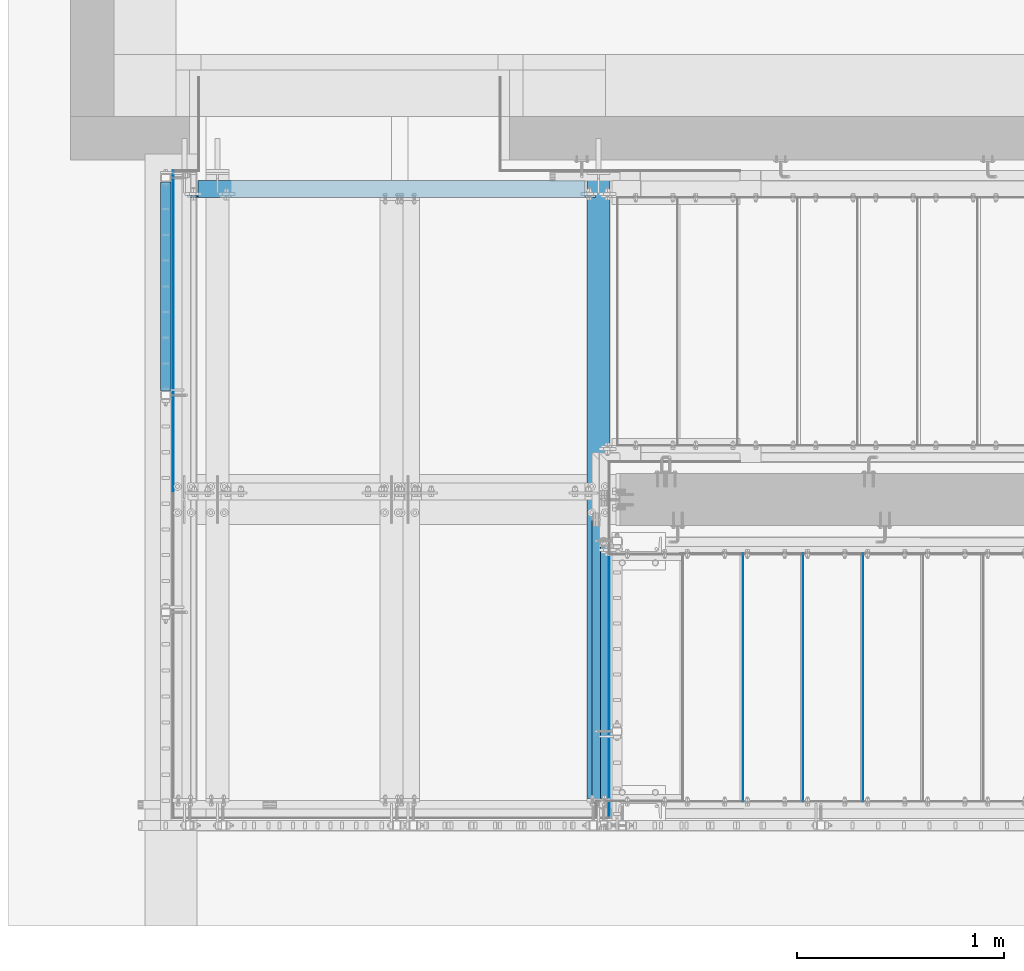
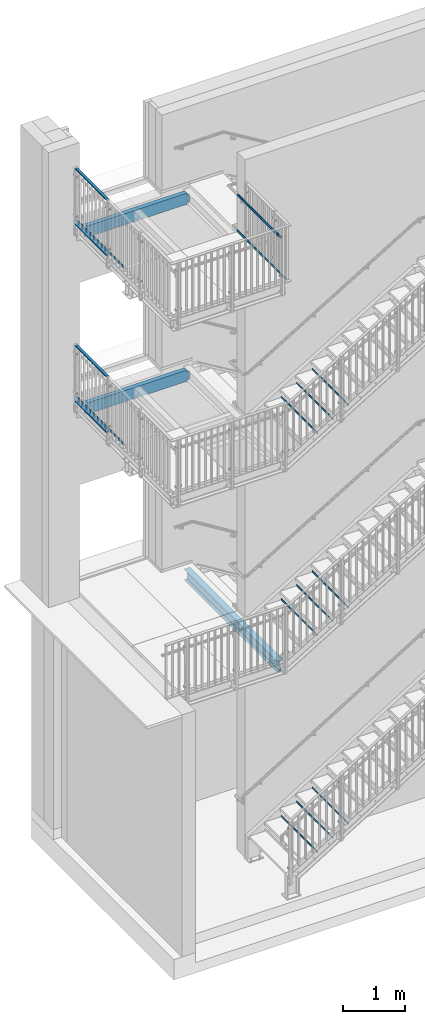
# One storey, part 29 of 410: 20 beams, 30 openings.
"""IFC2X3 building model written with IfcOpenShell, lengths in millimetres."""

import ifcopenshell
import ifcopenshell.guid

model = None  # the IFC model being written
_history = None  # IfcOwnerHistory: only IFC2X3 demands one
_inside = {}  # id of a spatial element -> (the spatial element, [elements in it])
_under = {}  # id of a project, library or spatial element -> (it, [spatial elements below it])
_declared = {}  # id of a project -> (the project, [libraries it declares])
_typed = {}  # id of a type object -> (the type object, [elements of that type])
_made_of = {}  # id of a material, layer set ... -> (it, [elements and type objects made of it])


def new_model(schema):
    """Start an empty IFC model of exactly this schema.

    Asked for "IFC4X3", IfcOpenShell would pick the latest addendum, in which some entities
    have other attributes; the version numbers below select the first issue.
    IFC2X3 requires an IfcOwnerHistory on every rooted entity: one is made here for all.
    """
    global model, _history
    if schema == "IFC4X3":
        model = ifcopenshell.file(schema_version=(4, 3, 0, 0))
    else:
        model = ifcopenshell.file(schema=schema)
    _inside.clear()
    _under.clear()
    _declared.clear()
    _typed.clear()
    _made_of.clear()
    _history = None
    if model.schema == "IFC2X3":
        org = make("IfcOrganization", Name="unknown")
        user = make(
            "IfcPersonAndOrganization",
            ThePerson=make("IfcPerson", FamilyName="unknown"),
            TheOrganization=org,
        )
        app = make(
            "IfcApplication",
            ApplicationDeveloper=org,
            Version="unknown",
            ApplicationFullName="unknown",
            ApplicationIdentifier="unknown",
        )
        _history = make(
            "IfcOwnerHistory",
            OwningUser=user,
            OwningApplication=app,
            ChangeAction="ADDED",
            CreationDate=0,
        )
    return model


def make(cls, **values):
    """One entity of the class cls with the attributes given. An attribute that is None is left unset."""
    return model.create_entity(
        cls, **{name: value for name, value in values.items() if value is not None}
    )


def entity(cls, *values):
    """Any entity or typed value of the class cls, its attributes in the order of the schema. None: left unset."""
    e = model.create_entity(cls)
    for i, value in enumerate(values):
        if value is not None:
            e[i] = value
    return e


def rooted(cls, **values):
    """An entity with a GlobalId (a new one), such as an element, a storey or a relation."""
    return make(cls, GlobalId=ifcopenshell.guid.new(), OwnerHistory=_history, **values)


def si_unit(unit_type, name, prefix=None):
    """IfcSIUnit, for example si_unit("LENGTHUNIT", "METRE", prefix="MILLI")."""
    return make("IfcSIUnit", UnitType=unit_type, Prefix=prefix, Name=name)


def converted_unit(unit_type, name, factor, base, dimensions=None, offset=None):
    """IfcConversionBasedUnit, such as the inch: factor (a typed value) times the base unit."""
    return make(
        "IfcConversionBasedUnit"
        if offset is None
        else "IfcConversionBasedUnitWithOffset",
        ConversionOffset=offset,
        Dimensions=None
        if dimensions is None
        else entity("IfcDimensionalExponents", *dimensions),
        UnitType=unit_type,
        Name=name,
        ConversionFactor=make(
            "IfcMeasureWithUnit", ValueComponent=factor, UnitComponent=base
        ),
    )


def assignment(units):
    """IfcUnitAssignment: the units of a project."""
    return None if units is None else make("IfcUnitAssignment", Units=units)


def point(xyz):
    """IfcCartesianPoint."""
    return None if xyz is None else make("IfcCartesianPoint", Coordinates=xyz)


def direction(xyz):
    """IfcDirection."""
    return None if xyz is None else make("IfcDirection", DirectionRatios=xyz)


def frame(location, z_axis=None, x_axis=None):
    """IfcAxis2Placement3D, a coordinate frame: its origin and axes. An axis left out is left unset."""
    return make(
        "IfcAxis2Placement3D",
        Location=point(location),
        Axis=direction(z_axis),
        RefDirection=direction(x_axis),
    )


def frame_2d(location, x_axis=None):
    """IfcAxis2Placement2D, a coordinate frame in the plane: its origin and x axis."""
    return make(
        "IfcAxis2Placement2D", Location=point(location), RefDirection=direction(x_axis)
    )


def origin():
    """The frame at (0, 0, 0) with its axes left unset."""
    return frame((0.0, 0.0, 0.0))


def origin_with_axes():
    """The frame at (0, 0, 0) with the z axis (0, 0, 1) and the x axis (1, 0, 0) written out."""
    return frame((0.0, 0.0, 0.0), z_axis=(0.0, 0.0, 1.0), x_axis=(1.0, 0.0, 0.0))


def origin_2d():
    """The frame at (0, 0) in the plane with its x axis left unset."""
    return frame_2d((0.0, 0.0))


def origin_2d_with_axis():
    """The frame at (0, 0) in the plane with the x axis (1, 0) written out."""
    return frame_2d((0.0, 0.0), x_axis=(1.0, 0.0))


def place(relative_to, where):
    """IfcLocalPlacement: puts the frame where relative to a parent placement (None: the world)."""
    return make(
        "IfcLocalPlacement", PlacementRelTo=relative_to, RelativePlacement=where
    )


def context(
    kind, dimensions, precision=None, world=None, true_north=None, identifier=None
):
    """IfcGeometricRepresentationContext, for example the 3D "Model" context."""
    return make(
        "IfcGeometricRepresentationContext",
        ContextIdentifier=identifier,
        ContextType=kind,
        CoordinateSpaceDimension=dimensions,
        Precision=precision,
        WorldCoordinateSystem=world,
        TrueNorth=true_north,
    )


def project(units=None, contexts=None):
    """IfcProject with its units and contexts."""
    return rooted(
        "IfcProject",
        Name="project",
        RepresentationContexts=contexts,
        UnitsInContext=assignment(units),
    )


def spatial(cls, under=None, at=None, **own):
    """A site, building, storey or space (cls), placed at a placement, below another one or the project."""
    s = rooted(cls, ObjectPlacement=at, **own)
    if under is not None:
        _under.setdefault(under.id(), (under, []))[1].append(s)
    return s


def circle_curve(where, radius):
    """IfcCircle in the frame where."""
    return make("IfcCircle", Position=where, Radius=radius)


def line_curve(start, along, magnitude):
    """IfcLine from a point along a vector."""
    return make(
        "IfcLine",
        Pnt=point(start),
        Dir=make("IfcVector", Orientation=direction(along), Magnitude=magnitude),
    )


def trimmed(basis, trim1, trim2, sense, master):
    """IfcTrimmedCurve: the piece of a basis curve between two trims."""
    return make(
        "IfcTrimmedCurve",
        BasisCurve=basis,
        Trim1=trim1,
        Trim2=trim2,
        SenseAgreement=sense,
        MasterRepresentation=master,
    )


def segment(curve, same_sense, transition):
    """IfcCompositeCurveSegment."""
    return make(
        "IfcCompositeCurveSegment",
        Transition=transition,
        SameSense=same_sense,
        ParentCurve=curve,
    )


def composite_curve(segments, self_intersect=None):
    """IfcCompositeCurve: segments joined end to end."""
    return make("IfcCompositeCurve", Segments=segments, SelfIntersect=self_intersect)


def profile(cls, at=None, kind="AREA", **sizes):
    """A parametric profile (cls). Its sizes go by their IFC names, for example OverallWidth=200.0."""
    return make(cls, ProfileType=kind, Position=at, **sizes)


def rectangle(**sizes):
    """IfcRectangleProfileDef."""
    return profile("IfcRectangleProfileDef", **sizes)


def circle(**sizes):
    """IfcCircleProfileDef."""
    return profile("IfcCircleProfileDef", **sizes)


def hollow_circle(**sizes):
    """IfcCircleHollowProfileDef."""
    return profile("IfcCircleHollowProfileDef", **sizes)


def i_section(**sizes):
    """IfcIShapeProfileDef."""
    return profile("IfcIShapeProfileDef", **sizes)


def u_section(**sizes):
    """IfcUShapeProfileDef."""
    return profile("IfcUShapeProfileDef", **sizes)


def outline(outer, holes=None, kind="AREA"):
    """IfcArbitraryClosedProfileDef: a profile drawn as a closed curve; with holes, ...WithVoids."""
    if holes is None:
        return make("IfcArbitraryClosedProfileDef", ProfileType=kind, OuterCurve=outer)
    return make(
        "IfcArbitraryProfileDefWithVoids",
        ProfileType=kind,
        OuterCurve=outer,
        InnerCurves=holes,
    )


def extrude(swept, where, along, depth):
    """IfcExtrudedAreaSolid: the profile swept, set in the frame where, extruded along a direction by depth."""
    return make(
        "IfcExtrudedAreaSolid",
        SweptArea=swept,
        Position=where,
        ExtrudedDirection=direction(along),
        Depth=depth,
    )


def clip(a, b, op="DIFFERENCE"):
    """IfcBooleanClippingResult: the solid a cut by the half space b."""
    return make(
        "IfcBooleanClippingResult", Operator=op, FirstOperand=a, SecondOperand=b
    )


def halfspace(plane, agree):
    """IfcHalfSpaceSolid: all space on one side of the plane z = 0 of the frame plane."""
    return make(
        "IfcHalfSpaceSolid",
        BaseSurface=make("IfcPlane", Position=plane),
        AgreementFlag=agree,
    )


def shape(context_of_items, identifier, shape_type, items):
    """IfcShapeRepresentation: the items that make up one representation, for example the "Body"."""
    return make(
        "IfcShapeRepresentation",
        ContextOfItems=context_of_items,
        RepresentationIdentifier=identifier,
        RepresentationType=shape_type,
        Items=items,
    )


def material(Name=None, Category=None):
    """IfcMaterial."""
    return make("IfcMaterial", Name=Name, Category=Category)


def made_of(thing, what):
    """Note that an element or type object is made of a material, layer set ...; save() writes the relation."""
    if what is not None:
        _made_of.setdefault(what.id(), (what, []))[1].append(thing)
    return thing


def element(
    cls,
    number,
    at=None,
    inside=None,
    cuts=None,
    type_object=None,
    material=None,
    context=None,
    identifier="Body",
    shape_type=None,
    held_by="IfcProductDefinitionShape",
    body=None,
    shapes=None,
    **own,
):
    """One element of the class cls, such as IfcWall. Its Tag is "e" and its number.

    at: its placement. inside: the storey or other place that contains it. cuts: it is an
    opening in that element (IfcRelVoidsElement). A single representation is given by context,
    identifier, shape_type and body (its items); several are given by shapes. held_by: the class
    of the entity that holds the representations. save() writes the other relations.
    """
    e = rooted(cls, Tag="e%d" % number, ObjectPlacement=at, **own)
    if body is not None:
        shapes = [shape(context, identifier, shape_type, body)]
    if shapes is not None:
        e.Representation = make(held_by, Representations=shapes)
    if inside is not None:
        _inside.setdefault(inside.id(), (inside, []))[1].append(e)
    if cuts is not None:
        rooted(
            "IfcRelVoidsElement", RelatingBuildingElement=cuts, RelatedOpeningElement=e
        )
    if type_object is not None:
        _typed.setdefault(type_object.id(), (type_object, []))[1].append(e)
    return made_of(e, material)


def aggregate(whole, parts):
    """IfcRelAggregates: a whole, such as a stair, and the parts it consists of."""
    return rooted("IfcRelAggregates", RelatingObject=whole, RelatedObjects=parts)


def save(model, path):
    """Write the relations noted so far, then the file.

    IfcRelAggregates (storeys below a building ...), IfcRelContainedInSpatialStructure (elements
    in a storey), IfcRelDefinesByType, IfcRelAssociatesMaterial and IfcRelDeclares: one each for
    every whole, place, type object, material and project.
    """
    for whole, parts in _under.values():
        aggregate(whole, parts)
    for where, things in _inside.values():
        rooted(
            "IfcRelContainedInSpatialStructure",
            RelatedElements=things,
            RelatingStructure=where,
        )
    for kind, things in _typed.values():
        rooted("IfcRelDefinesByType", RelatedObjects=things, RelatingType=kind)
    for what, things in _made_of.values():
        rooted("IfcRelAssociatesMaterial", RelatedObjects=things, RelatingMaterial=what)
    for by, libraries in _declared.values():
        rooted("IfcRelDeclares", RelatingContext=by, RelatedDefinitions=libraries)
    model.write(path)


model = new_model("IFC2X3")

# Units and contexts
model_context = context("Model", 3, precision=1e-09, world=origin_with_axes())
ifc_project = project(units=[si_unit("LENGTHUNIT", "METRE", prefix="MILLI"), si_unit("AREAUNIT", "SQUARE_METRE"), si_unit("VOLUMEUNIT", "CUBIC_METRE"), converted_unit("PLANEANGLEUNIT", "DEGREE", entity("IfcPlaneAngleMeasure", 0.01745329), si_unit("PLANEANGLEUNIT", "RADIAN"), dimensions=[0, 0, 0, 0, 0, 0, 0])], contexts=[model_context])

# Site, building, storey
site_placement = place(None, origin_with_axes())
site = spatial("IfcSite", under=ifc_project, at=site_placement, Name="mKR Teilneubau & Sanierung BA1 - Ostfildern", CompositionType="ELEMENT")
building_placement = place(site_placement, origin_with_axes())
building = spatial("IfcBuilding", under=site, at=building_placement, Name="Struktur 1", CompositionType="ELEMENT")
storey_placement = place(building_placement, origin_with_axes())
storey = spatial("IfcBuildingStorey", under=building, at=storey_placement, Name="Default Storey", CompositionType="ELEMENT", Elevation=0.0)

# Beams
ifc_material = material(Name="S235JR")
for number, where, z_axis, x_axis in (
    (1, (-1111.5, 15519.999999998, 4195.0), (0.0, -1.0, 0.0), (1.0, 0.0, 0.0)),
    (2, (-1111.5, 15519.999999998, 193.9130435), (0.0, -1.0, 0.0), (1.0, 0.0, 0.0)),
    (3, (-1111.5, 15519.999999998, -4092.4), (0.0, -1.0, 0.0), (1.0, 0.0, 0.0)),
    (4, (-821.5, 15519.999999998, -3913.6), (0.0, -1.0, 0.0), (1.0, 0.0, 0.0)),
    (5, (-531.5, 15519.999999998, -3734.8), (0.0, -1.0, 0.0), (1.0, 0.0, 0.0)),
    (6, (-821.5, 15519.999999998, 367.826087), (0.0, -1.0, 0.0), (1.0, 0.0, 0.0)),
    (7, (-531.5, 15519.999999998, 541.7391305), (0.0, -1.0, 0.0), (1.0, 0.0, 0.0)),
    (8, (-821.5, 15519.999999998, 4370.0), (0.0, -1.0, 0.0), (1.0, 0.0, 0.0)),
    (9, (-531.5, 15519.999999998, 4545.0), (0.0, -1.0, 0.0), (1.0, 0.0, 0.0)),
):
    element("IfcBeam", number, at=place(None, frame(where, z_axis=z_axis, x_axis=x_axis)), inside=storey, material=ifc_material, Name="-", ObjectType="-", context=model_context, shape_type="SweptSolid", body=[
        extrude(rectangle(XDim=3.0, YDim=40.0, at=origin_2d()), origin(), (0.0, 0.0, -1.0), 1200.0),
    ])

# Beam, openings
beam_1_placement = place(None, frame((-1595.901532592, 18461.399999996, 3830.0), z_axis=(1.0, 0.0, 0.0), x_axis=(0.0, 1.0, 0.0)))
beam_1 = element("IfcBeam", 10, at=beam_1_placement, inside=storey, material=ifc_material, Name="-", ObjectType="-", context=model_context, shape_type="Clipping", body=[
    clip(extrude(u_section(Depth=220.0, FlangeWidth=80.0, WebThickness=9.0, FlangeThickness=12.5, FilletRadius=12.5, EdgeRadius=6.0, FlangeSlope=4.574, at=frame_2d((18.6, 0.0))), origin(), (0.0, 0.0, -1.0), 2201.146999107), halfspace(frame((-18461.399999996, -3830.0, -227.047999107), z_axis=(0.0, 0.0, -1.0), x_axis=(-1.0, 0.0, 0.0)), True)),
])
opening_1_placement = place(beam_1_placement, frame((1518.6, 80.0, -274.096999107), z_axis=(-1.0, 0.0, 0.0), x_axis=(0.0, 0.0, 1.0)))
element("IfcOpeningElement", 11, at=opening_1_placement, cuts=beam_1, ObjectType="Opening", context=model_context, shape_type="SweptSolid", body=[
    extrude(outline(composite_curve([segment(trimmed(line_curve((47.85, 0.0), (0.0, 1.0), 30.8), [point((47.85, 0.0))], [point((47.85, 30.8))], True, "CARTESIAN"), True, "CONTINUOUS"), segment(trimmed(line_curve((47.85, 30.8), (-1.0, 0.0), 52.85), [point((47.85, 30.8))], [point((-5.0, 30.8))], True, "CARTESIAN"), True, "CONTINUOUS"), segment(trimmed(line_curve((-5.0, 30.8), (0.0, -1.0), 25.8), [point((-5.0, 30.8))], [point((-5.0, 5.0))], True, "CARTESIAN"), True, "CONTINUOUS"), segment(trimmed(circle_curve(frame_2d((0.0, 5.0), x_axis=(1.0, 0.0)), 5.0), [point((-5.0, 5.0))], [point((0.0, 0.0))], True, "CARTESIAN"), True, "CONTINUOUS"), segment(trimmed(line_curve((0.0, 0.0), (1.0, 0.0), 47.85), [point((0.0, 0.0))], [point((47.85, 0.0))], True, "CARTESIAN"), True, "CONTINUOUS")], self_intersect=False)), origin(), (0.0, 0.0, 1.0), 3000.0),
])
opening_2_placement = place(beam_1_placement, frame((-1481.4, -80.0, -274.096999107), z_axis=(1.0, 0.0, 0.0), x_axis=(0.0, 0.0, -1.0)))
element("IfcOpeningElement", 12, at=opening_2_placement, cuts=beam_1, ObjectType="Opening", context=model_context, shape_type="SweptSolid", body=[
    extrude(outline(composite_curve([segment(trimmed(line_curve((-47.85, 0.0), (0.0, -1.0), 30.8), [point((-47.85, 0.0))], [point((-47.85, -30.8))], True, "CARTESIAN"), True, "CONTINUOUS"), segment(trimmed(line_curve((-47.85, -30.8), (1.0, 0.0), 52.85), [point((-47.85, -30.8))], [point((5.0, -30.8))], True, "CARTESIAN"), True, "CONTINUOUS"), segment(trimmed(line_curve((5.0, -30.8), (0.0, 1.0), 25.8), [point((5.0, -30.8))], [point((5.0, -5.0))], True, "CARTESIAN"), True, "CONTINUOUS"), segment(trimmed(circle_curve(frame_2d((0.0, -5.0), x_axis=(1.0, 0.0)), 5.0), [point((5.0, -5.0))], [point((0.0, 0.0))], True, "CARTESIAN"), True, "CONTINUOUS"), segment(trimmed(line_curve((0.0, 0.0), (-1.0, 0.0), 47.85), [point((0.0, 0.0))], [point((-47.85, 0.0))], True, "CARTESIAN"), True, "CONTINUOUS")], self_intersect=False)), origin(), (0.0, 0.0, 1.0), 3000.0),
])
opening_3_placement = place(beam_1_placement, frame((-121.5, 110.0, -2201.146999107), z_axis=(1.0, 0.0, 0.0), x_axis=(0.0, 0.0, -1.0)))
element("IfcOpeningElement", 13, at=opening_3_placement, cuts=beam_1, ObjectType="Opening", context=model_context, shape_type="SweptSolid", body=[
    extrude(outline(composite_curve([segment(trimmed(circle_curve(frame_2d((-47.051, -25.001999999), x_axis=(1.0, 0.0)), 5.0), [point((-52.051, -25.001999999))], [point((-47.051, -30.001999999))], True, "CARTESIAN"), True, "CONTINUOUS"), segment(trimmed(line_curve((-47.051, -30.001999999), (1.0, 0.0), 100.151208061), [point((-47.051, -30.001999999))], [point((53.100208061, -30.001999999))], True, "CARTESIAN"), True, "CONTINUOUS"), segment(trimmed(circle_curve(frame_2d((53.100208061, -25.001999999), x_axis=(1.0, 0.0)), 5.0), [point((53.100208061, -30.001999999))], [point((58.100208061, -25.001999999))], True, "CARTESIAN"), True, "CONTINUOUS"), segment(trimmed(line_curve((58.100208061, -25.001999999), (0.0, 1.0), 65.400929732), [point((58.100208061, -25.001999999))], [point((58.100208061, 40.398929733))], True, "CARTESIAN"), True, "CONTINUOUS"), segment(trimmed(circle_curve(frame_2d((53.100208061, 40.398929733), x_axis=(1.0, 0.0)), 5.0), [point((58.100208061, 40.398929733))], [point((53.100208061, 45.398929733))], True, "CARTESIAN"), True, "CONTINUOUS"), segment(trimmed(line_curve((53.100208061, 45.398929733), (-1.0, 0.0), 100.151208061), [point((53.100208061, 45.398929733))], [point((-47.051, 45.398929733))], True, "CARTESIAN"), True, "CONTINUOUS"), segment(trimmed(circle_curve(frame_2d((-47.051, 40.398929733), x_axis=(1.0, 0.0)), 5.0), [point((-47.051, 45.398929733))], [point((-52.051, 40.398929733))], True, "CARTESIAN"), True, "CONTINUOUS"), segment(trimmed(line_curve((-52.051, 40.398929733), (0.0, -1.0), 65.400929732), [point((-52.051, 40.398929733))], [point((-52.051, -25.001999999))], True, "CARTESIAN"), True, "CONTINUOUS")], self_intersect=False)), origin(), (0.0, 0.0, 1.0), 280.2),
])
opening_4_placement = place(beam_1_placement, frame((-121.5, 110.0, -2201.146999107), z_axis=(1.0, 0.0, 0.0), x_axis=(0.0, 0.0, -1.0)))
element("IfcOpeningElement", 14, at=opening_4_placement, cuts=beam_1, ObjectType="Opening", context=model_context, shape_type="SweptSolid", body=[
    extrude(outline(composite_curve([segment(trimmed(circle_curve(frame_2d((-47.051, -243.27269423), x_axis=(1.0, 0.0)), 5.0), [point((-52.051, -243.27269423))], [point((-47.051, -248.27269423))], True, "CARTESIAN"), True, "CONTINUOUS"), segment(trimmed(line_curve((-47.051, -248.27269423), (1.0, 0.0), 70.848086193), [point((-47.051, -248.27269423))], [point((23.797086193, -248.27269423))], True, "CARTESIAN"), True, "CONTINUOUS"), segment(trimmed(circle_curve(frame_2d((23.797086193, -243.27269423), x_axis=(1.0, 0.0)), 5.0), [point((23.797086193, -248.27269423))], [point((28.797086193, -243.27269423))], True, "CARTESIAN"), True, "CONTINUOUS"), segment(trimmed(line_curve((28.797086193, -243.27269423), (0.0, 1.0), 48.273694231), [point((28.797086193, -243.27269423))], [point((28.797086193, -194.999))], True, "CARTESIAN"), True, "CONTINUOUS"), segment(trimmed(circle_curve(frame_2d((23.797086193, -194.999), x_axis=(1.0, 0.0)), 5.0), [point((28.797086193, -194.999))], [point((23.797086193, -189.999))], True, "CARTESIAN"), True, "CONTINUOUS"), segment(trimmed(line_curve((23.797086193, -189.999), (-1.0, 0.0), 70.848086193), [point((23.797086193, -189.999))], [point((-47.051, -189.999))], True, "CARTESIAN"), True, "CONTINUOUS"), segment(trimmed(circle_curve(frame_2d((-47.051, -194.999), x_axis=(1.0, 0.0)), 5.0), [point((-47.051, -189.999))], [point((-52.051, -194.999))], True, "CARTESIAN"), True, "CONTINUOUS"), segment(trimmed(line_curve((-52.051, -194.999), (0.0, -1.0), 48.273694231), [point((-52.051, -194.999))], [point((-52.051, -243.27269423))], True, "CARTESIAN"), True, "CONTINUOUS")], self_intersect=False)), origin(), (0.0, 0.0, 1.0), 280.2),
])
opening_5_placement = place(beam_1_placement, frame((-11.9, -50.0, -2179.147999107), z_axis=(1.0, 0.0, 0.0), x_axis=(0.0, 1.0, 0.0)))
element("IfcOpeningElement", 15, at=opening_5_placement, cuts=beam_1, ObjectType="Opening", context=model_context, shape_type="SweptSolid", body=[
    extrude(circle(Radius=9.001, at=frame_2d((0.0, 9.001), x_axis=(1.0, 0.0))), origin(), (0.0, 0.0, -1.0), 10.0),
])
opening_6_placement = place(beam_1_placement, frame((-11.9, 50.0, -2179.147999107), z_axis=(1.0, 0.0, 0.0), x_axis=(0.0, 1.0, 0.0)))
element("IfcOpeningElement", 16, at=opening_6_placement, cuts=beam_1, ObjectType="Opening", context=model_context, shape_type="SweptSolid", body=[
    extrude(circle(Radius=9.001, at=frame_2d((0.0, 9.001), x_axis=(1.0, 0.0))), origin(), (0.0, 0.0, -1.0), 10.0),
])
opening_7_placement = place(beam_1_placement, frame((-11.9, 50.0, -258.046999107), z_axis=(-1.0, 0.0, 0.0), x_axis=(0.0, 0.0, -1.0)))
element("IfcOpeningElement", 17, at=opening_7_placement, cuts=beam_1, ObjectType="Opening", context=model_context, shape_type="SweptSolid", body=[
    extrude(circle(Radius=9.001, at=frame_2d((0.0, 100.0), x_axis=(1.0, 0.0))), origin(), (0.0, 0.0, 1.0), 10.0),
])
opening_8_placement = place(beam_1_placement, frame((-11.9, 50.0, -258.046999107), z_axis=(-1.0, 0.0, 0.0), x_axis=(0.0, 0.0, -1.0)))
element("IfcOpeningElement", 18, at=opening_8_placement, cuts=beam_1, ObjectType="Opening", context=model_context, shape_type="SweptSolid", body=[
    extrude(circle(Radius=9.001, at=origin_2d_with_axis()), origin(), (0.0, 0.0, 1.0), 10.0),
])
opening_9_placement = place(beam_1_placement, frame((-21.9, 60.000000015, -1191.097999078), z_axis=(-1.0, 0.0, 0.0), x_axis=(0.0, -1.0, 0.0)))
element("IfcOpeningElement", 19, at=opening_9_placement, cuts=beam_1, ObjectType="Opening", context=model_context, shape_type="SweptSolid", body=[
    extrude(circle(Radius=7.001, at=frame_2d((0.0, 7.001), x_axis=(1.0, 0.0))), origin(), (0.0, 0.0, -1.0), 10.0),
])
opening_10_placement = place(beam_1_placement, frame((-21.9, 60.000000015, -1251.097999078), z_axis=(-1.0, 0.0, 0.0), x_axis=(0.0, -1.0, 0.0)))
element("IfcOpeningElement", 20, at=opening_10_placement, cuts=beam_1, ObjectType="Opening", context=model_context, shape_type="SweptSolid", body=[
    extrude(circle(Radius=7.001, at=frame_2d((0.0, 7.001), x_axis=(1.0, 0.0))), origin(), (0.0, 0.0, -1.0), 10.0),
])
opening_11_placement = place(beam_1_placement, frame((-21.9, -59.999999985, -1191.097999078), z_axis=(-1.0, 0.0, 0.0), x_axis=(0.0, -1.0, 0.0)))
element("IfcOpeningElement", 21, at=opening_11_placement, cuts=beam_1, ObjectType="Opening", context=model_context, shape_type="SweptSolid", body=[
    extrude(circle(Radius=7.001, at=frame_2d((0.0, 7.001), x_axis=(1.0, 0.0))), origin(), (0.0, 0.0, -1.0), 10.0),
])
opening_12_placement = place(beam_1_placement, frame((-21.9, -59.999999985, -1251.097999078), z_axis=(-1.0, 0.0, 0.0), x_axis=(0.0, -1.0, 0.0)))
element("IfcOpeningElement", 22, at=opening_12_placement, cuts=beam_1, ObjectType="Opening", context=model_context, shape_type="SweptSolid", body=[
    extrude(circle(Radius=7.001, at=frame_2d((0.0, 7.001), x_axis=(1.0, 0.0))), origin(), (0.0, 0.0, -1.0), 10.0),
])

# Beams
for number, where, z_axis, x_axis in (
    (23, (-3899.9485317, 18514.499999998, 8592.500007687), (0.0, 1.0, 0.0), (0.0, 0.0, -1.0)),
    (24, (-3899.9485317, 17505.499999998, 7492.5), (0.0, -1.0, 0.0), (0.0, 0.0, 1.0)),
):
    element("IfcBeam", number, at=place(None, frame(where, z_axis=z_axis, x_axis=x_axis)), inside=storey, material=ifc_material, Name="-", ObjectType="-", context=model_context, shape_type="SweptSolid", body=[
        extrude(rectangle(XDim=15.0, YDim=50.0, at=origin_2d()), origin(), (0.0, 0.0, -1.0), 1009.0),
    ])

# Beam, openings
beam_2_placement = place(None, frame((-1809.9985317, 18549.99935555, -170.0), z_axis=(0.0, 1.0, 0.0), x_axis=(1.0, 0.0, 0.0)))
beam_2 = element("IfcBeam", 25, at=beam_2_placement, inside=storey, material=ifc_material, Name="-", ObjectType="-", context=model_context, shape_type="SweptSolid", body=[
    extrude(i_section(OverallWidth=110.0, OverallDepth=220.0, WebThickness=5.9, FlangeThickness=9.2, FilletRadius=12.0, at=origin_2d()), origin(), (0.0, 0.0, -1.0), 3014.999355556),
])
opening_13_placement = place(beam_2_placement, frame((33.0, 110.5, -1632.99935555), z_axis=(0.0, -1.0, 0.0), x_axis=(1.0, 0.0, 0.0)))
element("IfcOpeningElement", 26, at=opening_13_placement, cuts=beam_2, ObjectType="Opening", context=model_context, shape_type="SweptSolid", body=[
    extrude(outline(composite_curve([segment(trimmed(line_curve((7.001, -8.0), (0.0, 1.0), 16.0), [point((7.001, -8.0))], [point((7.001, 8.0))], True, "CARTESIAN"), True, "CONTINUOUS"), segment(trimmed(circle_curve(frame_2d((0.0, 8.0), x_axis=(1.0, 0.0)), 7.001), [point((7.001, 8.0))], [point((-7.001, 8.0))], True, "CARTESIAN"), True, "CONTINUOUS"), segment(trimmed(line_curve((-7.001, 8.0), (0.0, -1.0), 16.0), [point((-7.001, 8.0))], [point((-7.001, -8.0))], True, "CARTESIAN"), True, "CONTINUOUS"), segment(trimmed(circle_curve(frame_2d((0.0, -8.0), x_axis=(1.0, 0.0)), 7.001), [point((-7.001, -8.0))], [point((7.001, -8.0))], True, "CARTESIAN"), True, "CONTINUOUS")], self_intersect=False)), origin(), (0.0, 0.0, 1.0), 10.2),
])
opening_14_placement = place(beam_2_placement, frame((-33.0, 110.5, -1632.99935555), z_axis=(0.0, -1.0, 0.0), x_axis=(1.0, 0.0, 0.0)))
element("IfcOpeningElement", 27, at=opening_14_placement, cuts=beam_2, ObjectType="Opening", context=model_context, shape_type="SweptSolid", body=[
    extrude(outline(composite_curve([segment(trimmed(line_curve((7.001, -8.0), (0.0, 1.0), 16.0), [point((7.001, -8.0))], [point((7.001, 8.0))], True, "CARTESIAN"), True, "CONTINUOUS"), segment(trimmed(circle_curve(frame_2d((0.0, 8.0), x_axis=(1.0, 0.0)), 7.001), [point((7.001, 8.0))], [point((-7.001, 8.0))], True, "CARTESIAN"), True, "CONTINUOUS"), segment(trimmed(line_curve((-7.001, 8.0), (0.0, -1.0), 16.0), [point((-7.001, 8.0))], [point((-7.001, -8.0))], True, "CARTESIAN"), True, "CONTINUOUS"), segment(trimmed(circle_curve(frame_2d((0.0, -8.0), x_axis=(1.0, 0.0)), 7.001), [point((-7.001, -8.0))], [point((7.001, -8.0))], True, "CARTESIAN"), True, "CONTINUOUS")], self_intersect=False)), origin(), (0.0, 0.0, 1.0), 10.2),
])
opening_15_placement = place(beam_2_placement, frame((-33.0, 110.5, -1506.99935555), z_axis=(0.0, -1.0, 0.0), x_axis=(1.0, 0.0, 0.0)))
element("IfcOpeningElement", 28, at=opening_15_placement, cuts=beam_2, ObjectType="Opening", context=model_context, shape_type="SweptSolid", body=[
    extrude(outline(composite_curve([segment(trimmed(line_curve((7.001, -8.0), (0.0, 1.0), 16.0), [point((7.001, -8.0))], [point((7.001, 8.0))], True, "CARTESIAN"), True, "CONTINUOUS"), segment(trimmed(circle_curve(frame_2d((0.0, 8.0), x_axis=(1.0, 0.0)), 7.001), [point((7.001, 8.0))], [point((-7.001, 8.0))], True, "CARTESIAN"), True, "CONTINUOUS"), segment(trimmed(line_curve((-7.001, 8.0), (0.0, -1.0), 16.0), [point((-7.001, 8.0))], [point((-7.001, -8.0))], True, "CARTESIAN"), True, "CONTINUOUS"), segment(trimmed(circle_curve(frame_2d((0.0, -8.0), x_axis=(1.0, 0.0)), 7.001), [point((-7.001, -8.0))], [point((7.001, -8.0))], True, "CARTESIAN"), True, "CONTINUOUS")], self_intersect=False)), origin(), (0.0, 0.0, 1.0), 10.2),
])
opening_16_placement = place(beam_2_placement, frame((33.0, 110.5, -1506.99935555), z_axis=(0.0, -1.0, 0.0), x_axis=(1.0, 0.0, 0.0)))
element("IfcOpeningElement", 29, at=opening_16_placement, cuts=beam_2, ObjectType="Opening", context=model_context, shape_type="SweptSolid", body=[
    extrude(outline(composite_curve([segment(trimmed(line_curve((7.001, -8.0), (0.0, 1.0), 16.0), [point((7.001, -8.0))], [point((7.001, 8.0))], True, "CARTESIAN"), True, "CONTINUOUS"), segment(trimmed(circle_curve(frame_2d((0.0, 8.0), x_axis=(1.0, 0.0)), 7.001), [point((7.001, 8.0))], [point((-7.001, 8.0))], True, "CARTESIAN"), True, "CONTINUOUS"), segment(trimmed(line_curve((-7.001, 8.0), (0.0, -1.0), 16.0), [point((-7.001, 8.0))], [point((-7.001, -8.0))], True, "CARTESIAN"), True, "CONTINUOUS"), segment(trimmed(circle_curve(frame_2d((0.0, -8.0), x_axis=(1.0, 0.0)), 7.001), [point((-7.001, -8.0))], [point((7.001, -8.0))], True, "CARTESIAN"), True, "CONTINUOUS")], self_intersect=False)), origin(), (0.0, 0.0, 1.0), 10.2),
])
opening_17_placement = place(beam_2_placement, frame((-3.45, 79.0, -15.0), z_axis=(1.0, 0.0, 0.0), x_axis=(0.0, 0.0, -1.0)))
element("IfcOpeningElement", 30, at=opening_17_placement, cuts=beam_2, ObjectType="Opening", context=model_context, shape_type="SweptSolid", body=[
    extrude(circle(Radius=7.001, at=origin_2d_with_axis()), origin(), (0.0, 0.0, 1.0), 6.9),
])
opening_18_placement = place(beam_2_placement, frame((-3.45, -79.0, -15.0), z_axis=(1.0, 0.0, 0.0), x_axis=(0.0, 0.0, -1.0)))
element("IfcOpeningElement", 31, at=opening_18_placement, cuts=beam_2, ObjectType="Opening", context=model_context, shape_type="SweptSolid", body=[
    extrude(circle(Radius=7.001, at=origin_2d_with_axis()), origin(), (0.0, 0.0, 1.0), 6.9),
])

beam_3_placement = place(None, frame((-1595.901532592, 18461.399999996, 7330.0), z_axis=(1.0, 0.0, 0.0), x_axis=(0.0, 1.0, 0.0)))
beam_3 = element("IfcBeam", 32, at=beam_3_placement, inside=storey, material=ifc_material, Name="-", ObjectType="-", context=model_context, shape_type="Clipping", body=[
    clip(extrude(u_section(Depth=220.0, FlangeWidth=80.0, WebThickness=9.0, FlangeThickness=12.5, FilletRadius=12.5, EdgeRadius=6.0, FlangeSlope=4.574, at=frame_2d((18.6, 0.0))), origin(), (0.0, 0.0, -1.0), 2201.146999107), halfspace(frame((-18461.399999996, -7330.0, -227.047999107), z_axis=(0.0, 0.0, -1.0), x_axis=(-1.0, 0.0, 0.0)), True)),
])
opening_19_placement = place(beam_3_placement, frame((1518.6, 80.0, -274.096999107), z_axis=(-1.0, 0.0, 0.0), x_axis=(0.0, 0.0, 1.0)))
element("IfcOpeningElement", 33, at=opening_19_placement, cuts=beam_3, ObjectType="Opening", context=model_context, shape_type="SweptSolid", body=[
    extrude(outline(composite_curve([segment(trimmed(line_curve((47.85, 0.0), (0.0, 1.0), 30.8), [point((47.85, 0.0))], [point((47.85, 30.8))], True, "CARTESIAN"), True, "CONTINUOUS"), segment(trimmed(line_curve((47.85, 30.8), (-1.0, 0.0), 52.85), [point((47.85, 30.8))], [point((-5.0, 30.8))], True, "CARTESIAN"), True, "CONTINUOUS"), segment(trimmed(line_curve((-5.0, 30.8), (0.0, -1.0), 25.8), [point((-5.0, 30.8))], [point((-5.0, 5.0))], True, "CARTESIAN"), True, "CONTINUOUS"), segment(trimmed(circle_curve(frame_2d((0.0, 5.0), x_axis=(1.0, 0.0)), 5.0), [point((-5.0, 5.0))], [point((0.0, 0.0))], True, "CARTESIAN"), True, "CONTINUOUS"), segment(trimmed(line_curve((0.0, 0.0), (1.0, 0.0), 47.85), [point((0.0, 0.0))], [point((47.85, 0.0))], True, "CARTESIAN"), True, "CONTINUOUS")], self_intersect=False)), origin(), (0.0, 0.0, 1.0), 3000.0),
])
opening_20_placement = place(beam_3_placement, frame((-1481.4, -80.0, -274.096999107), z_axis=(1.0, 0.0, 0.0), x_axis=(0.0, 0.0, -1.0)))
element("IfcOpeningElement", 34, at=opening_20_placement, cuts=beam_3, ObjectType="Opening", context=model_context, shape_type="SweptSolid", body=[
    extrude(outline(composite_curve([segment(trimmed(line_curve((-47.85, 0.0), (0.0, -1.0), 30.8), [point((-47.85, 0.0))], [point((-47.85, -30.8))], True, "CARTESIAN"), True, "CONTINUOUS"), segment(trimmed(line_curve((-47.85, -30.8), (1.0, 0.0), 52.85), [point((-47.85, -30.8))], [point((5.0, -30.8))], True, "CARTESIAN"), True, "CONTINUOUS"), segment(trimmed(line_curve((5.0, -30.8), (0.0, 1.0), 25.8), [point((5.0, -30.8))], [point((5.0, -5.0))], True, "CARTESIAN"), True, "CONTINUOUS"), segment(trimmed(circle_curve(frame_2d((0.0, -5.0), x_axis=(1.0, 0.0)), 5.0), [point((5.0, -5.0))], [point((0.0, 0.0))], True, "CARTESIAN"), True, "CONTINUOUS"), segment(trimmed(line_curve((0.0, 0.0), (-1.0, 0.0), 47.85), [point((0.0, 0.0))], [point((-47.85, 0.0))], True, "CARTESIAN"), True, "CONTINUOUS")], self_intersect=False)), origin(), (0.0, 0.0, 1.0), 3000.0),
])
opening_21_placement = place(beam_3_placement, frame((-121.5, 110.0, -2201.146999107), z_axis=(1.0, 0.0, 0.0), x_axis=(0.0, 0.0, -1.0)))
element("IfcOpeningElement", 35, at=opening_21_placement, cuts=beam_3, ObjectType="Opening", context=model_context, shape_type="SweptSolid", body=[
    extrude(outline(composite_curve([segment(trimmed(circle_curve(frame_2d((-47.051, -25.001999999), x_axis=(1.0, 0.0)), 5.0), [point((-52.051, -25.001999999))], [point((-47.051, -30.001999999))], True, "CARTESIAN"), True, "CONTINUOUS"), segment(trimmed(line_curve((-47.051, -30.001999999), (1.0, 0.0), 100.151208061), [point((-47.051, -30.001999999))], [point((53.100208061, -30.001999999))], True, "CARTESIAN"), True, "CONTINUOUS"), segment(trimmed(circle_curve(frame_2d((53.100208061, -25.001999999), x_axis=(1.0, 0.0)), 5.0), [point((53.100208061, -30.001999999))], [point((58.100208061, -25.001999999))], True, "CARTESIAN"), True, "CONTINUOUS"), segment(trimmed(line_curve((58.100208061, -25.001999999), (0.0, 1.0), 65.400929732), [point((58.100208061, -25.001999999))], [point((58.100208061, 40.398929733))], True, "CARTESIAN"), True, "CONTINUOUS"), segment(trimmed(circle_curve(frame_2d((53.100208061, 40.398929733), x_axis=(1.0, 0.0)), 5.0), [point((58.100208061, 40.398929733))], [point((53.100208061, 45.398929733))], True, "CARTESIAN"), True, "CONTINUOUS"), segment(trimmed(line_curve((53.100208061, 45.398929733), (-1.0, 0.0), 100.151208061), [point((53.100208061, 45.398929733))], [point((-47.051, 45.398929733))], True, "CARTESIAN"), True, "CONTINUOUS"), segment(trimmed(circle_curve(frame_2d((-47.051, 40.398929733), x_axis=(1.0, 0.0)), 5.0), [point((-47.051, 45.398929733))], [point((-52.051, 40.398929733))], True, "CARTESIAN"), True, "CONTINUOUS"), segment(trimmed(line_curve((-52.051, 40.398929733), (0.0, -1.0), 65.400929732), [point((-52.051, 40.398929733))], [point((-52.051, -25.001999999))], True, "CARTESIAN"), True, "CONTINUOUS")], self_intersect=False)), origin(), (0.0, 0.0, 1.0), 280.2),
])
opening_22_placement = place(beam_3_placement, frame((-121.5, 110.0, -2201.146999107), z_axis=(1.0, 0.0, 0.0), x_axis=(0.0, 0.0, -1.0)))
element("IfcOpeningElement", 36, at=opening_22_placement, cuts=beam_3, ObjectType="Opening", context=model_context, shape_type="SweptSolid", body=[
    extrude(outline(composite_curve([segment(trimmed(circle_curve(frame_2d((-47.051, -243.27269423), x_axis=(1.0, 0.0)), 5.0), [point((-52.051, -243.27269423))], [point((-47.051, -248.27269423))], True, "CARTESIAN"), True, "CONTINUOUS"), segment(trimmed(line_curve((-47.051, -248.27269423), (1.0, 0.0), 70.848086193), [point((-47.051, -248.27269423))], [point((23.797086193, -248.27269423))], True, "CARTESIAN"), True, "CONTINUOUS"), segment(trimmed(circle_curve(frame_2d((23.797086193, -243.27269423), x_axis=(1.0, 0.0)), 5.0), [point((23.797086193, -248.27269423))], [point((28.797086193, -243.27269423))], True, "CARTESIAN"), True, "CONTINUOUS"), segment(trimmed(line_curve((28.797086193, -243.27269423), (0.0, 1.0), 48.273694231), [point((28.797086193, -243.27269423))], [point((28.797086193, -194.999))], True, "CARTESIAN"), True, "CONTINUOUS"), segment(trimmed(circle_curve(frame_2d((23.797086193, -194.999), x_axis=(1.0, 0.0)), 5.0), [point((28.797086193, -194.999))], [point((23.797086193, -189.999))], True, "CARTESIAN"), True, "CONTINUOUS"), segment(trimmed(line_curve((23.797086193, -189.999), (-1.0, 0.0), 70.848086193), [point((23.797086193, -189.999))], [point((-47.051, -189.999))], True, "CARTESIAN"), True, "CONTINUOUS"), segment(trimmed(circle_curve(frame_2d((-47.051, -194.999), x_axis=(1.0, 0.0)), 5.0), [point((-47.051, -189.999))], [point((-52.051, -194.999))], True, "CARTESIAN"), True, "CONTINUOUS"), segment(trimmed(line_curve((-52.051, -194.999), (0.0, -1.0), 48.273694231), [point((-52.051, -194.999))], [point((-52.051, -243.27269423))], True, "CARTESIAN"), True, "CONTINUOUS")], self_intersect=False)), origin(), (0.0, 0.0, 1.0), 280.2),
])
opening_23_placement = place(beam_3_placement, frame((-11.9, 50.0, -258.046999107), z_axis=(-1.0, 0.0, 0.0), x_axis=(0.0, 0.0, -1.0)))
element("IfcOpeningElement", 37, at=opening_23_placement, cuts=beam_3, ObjectType="Opening", context=model_context, shape_type="SweptSolid", body=[
    extrude(circle(Radius=9.001, at=frame_2d((0.0, 100.0), x_axis=(1.0, 0.0))), origin(), (0.0, 0.0, 1.0), 10.0),
])
opening_24_placement = place(beam_3_placement, frame((-11.9, 50.0, -258.046999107), z_axis=(-1.0, 0.0, 0.0), x_axis=(0.0, 0.0, -1.0)))
element("IfcOpeningElement", 38, at=opening_24_placement, cuts=beam_3, ObjectType="Opening", context=model_context, shape_type="SweptSolid", body=[
    extrude(circle(Radius=9.001, at=origin_2d_with_axis()), origin(), (0.0, 0.0, 1.0), 10.0),
])
opening_25_placement = place(beam_3_placement, frame((-11.9, -50.0, -2179.147999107), z_axis=(1.0, 0.0, 0.0), x_axis=(0.0, 1.0, 0.0)))
element("IfcOpeningElement", 39, at=opening_25_placement, cuts=beam_3, ObjectType="Opening", context=model_context, shape_type="SweptSolid", body=[
    extrude(circle(Radius=9.001, at=frame_2d((0.0, 9.001), x_axis=(1.0, 0.0))), origin(), (0.0, 0.0, -1.0), 10.0),
])
opening_26_placement = place(beam_3_placement, frame((-11.9, 50.0, -2179.147999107), z_axis=(1.0, 0.0, 0.0), x_axis=(0.0, 1.0, 0.0)))
element("IfcOpeningElement", 40, at=opening_26_placement, cuts=beam_3, ObjectType="Opening", context=model_context, shape_type="SweptSolid", body=[
    extrude(circle(Radius=9.001, at=frame_2d((0.0, 9.001), x_axis=(1.0, 0.0))), origin(), (0.0, 0.0, -1.0), 10.0),
])
opening_27_placement = place(beam_3_placement, frame((-21.9, 60.000000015, -1191.097999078), z_axis=(-1.0, 0.0, 0.0), x_axis=(0.0, -1.0, 0.0)))
element("IfcOpeningElement", 41, at=opening_27_placement, cuts=beam_3, ObjectType="Opening", context=model_context, shape_type="SweptSolid", body=[
    extrude(circle(Radius=7.001, at=frame_2d((0.0, 7.001), x_axis=(1.0, 0.0))), origin(), (0.0, 0.0, -1.0), 10.0),
])
opening_28_placement = place(beam_3_placement, frame((-21.9, 60.000000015, -1251.097999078), z_axis=(-1.0, 0.0, 0.0), x_axis=(0.0, -1.0, 0.0)))
element("IfcOpeningElement", 42, at=opening_28_placement, cuts=beam_3, ObjectType="Opening", context=model_context, shape_type="SweptSolid", body=[
    extrude(circle(Radius=7.001, at=frame_2d((0.0, 7.001), x_axis=(1.0, 0.0))), origin(), (0.0, 0.0, -1.0), 10.0),
])
opening_29_placement = place(beam_3_placement, frame((-21.9, -59.999999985, -1191.097999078), z_axis=(-1.0, 0.0, 0.0), x_axis=(0.0, -1.0, 0.0)))
element("IfcOpeningElement", 43, at=opening_29_placement, cuts=beam_3, ObjectType="Opening", context=model_context, shape_type="SweptSolid", body=[
    extrude(circle(Radius=7.001, at=frame_2d((0.0, 7.001), x_axis=(1.0, 0.0))), origin(), (0.0, 0.0, -1.0), 10.0),
])
opening_30_placement = place(beam_3_placement, frame((-21.9, -59.999999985, -1251.097999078), z_axis=(-1.0, 0.0, 0.0), x_axis=(0.0, -1.0, 0.0)))
element("IfcOpeningElement", 44, at=opening_30_placement, cuts=beam_3, ObjectType="Opening", context=model_context, shape_type="SweptSolid", body=[
    extrude(circle(Radius=7.001, at=frame_2d((0.0, 7.001), x_axis=(1.0, 0.0))), origin(), (0.0, 0.0, -1.0), 10.0),
])

# Beams
beam_4_placement = place(None, frame((-1756.9985317, 17018.0, 7525.0), z_axis=(0.0, 1.0, 0.0), x_axis=(-1.0, 0.0, 0.0)))
element("IfcBeam", 45, at=beam_4_placement, inside=storey, material=ifc_material, Name="-", ObjectType="-", context=model_context, shape_type="SweptSolid", body=[
    extrude(rectangle(XDim=4.0, YDim=50.0, at=origin_2d()), origin(), (0.0, 0.0, -1.0), 1574.000000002),
])
beam_5_placement = place(None, frame((-3862.9985317, 17020.0, 7525.0), z_axis=(0.0, -1.0, 0.0), x_axis=(1.0, 0.0, 0.0)))
element("IfcBeam", 46, at=beam_5_placement, inside=storey, material=ifc_material, Name="-", ObjectType="-", context=model_context, shape_type="SweptSolid", body=[
    extrude(rectangle(XDim=4.0, YDim=50.0, at=origin_2d()), origin(), (0.0, 0.0, -1.0), 1549.998999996),
])
beam_6_placement = place(None, frame((-3862.9985317, 18570.0004683, 4025.0), z_axis=(0.0, 1.0, 0.0), x_axis=(-1.0, 0.0, 0.0)))
element("IfcBeam", 47, at=beam_6_placement, inside=storey, material=ifc_material, Name="-", ObjectType="-", context=model_context, shape_type="SweptSolid", body=[
    extrude(rectangle(XDim=4.0, YDim=50.0, at=origin_2d()), origin(), (0.0, 0.0, -1.0), 1550.0004683),
])
for number, where, z_axis, x_axis in (
    (48, (-3899.9485317, 18514.499999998, 5092.500007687), (0.0, 1.0, 0.0), (0.0, 0.0, -1.0)),
    (49, (-3899.9485317, 17505.499999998, 3992.5), (0.0, -1.0, 0.0), (0.0, 0.0, 1.0)),
):
    element("IfcBeam", number, at=place(None, frame(where, z_axis=z_axis, x_axis=x_axis)), inside=storey, material=ifc_material, Name="-", ObjectType="-", context=model_context, shape_type="SweptSolid", body=[
        extrude(rectangle(XDim=15.0, YDim=50.0, at=origin_2d()), origin(), (0.0, 0.0, -1.0), 1009.0),
    ])
beam_7_placement = place(None, frame((-1820.0485317, 15463.599999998, 8328.8), z_axis=(0.0, -1.0, 0.0), x_axis=(1.0, 0.0, 0.0)))
element("IfcBeam", 50, at=beam_7_placement, inside=storey, Name="-", ObjectType="-", context=model_context, shape_type="Clipping", body=[
    clip(extrude(hollow_circle(Radius=21.2, WallThickness=3.2, at=origin_2d()), origin(), (0.0, 0.0, -1.0), 1416.400000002), halfspace(frame((8663.024972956, -8328.8, 8620.623558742), z_axis=(0.707106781, 0.0, -0.707106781), x_axis=(-0.707106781, 0.0, -0.707106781)), True)),
])

save(model, "model.ifc")
